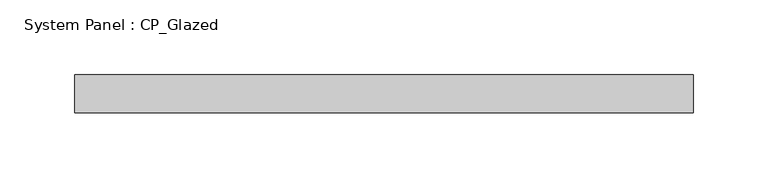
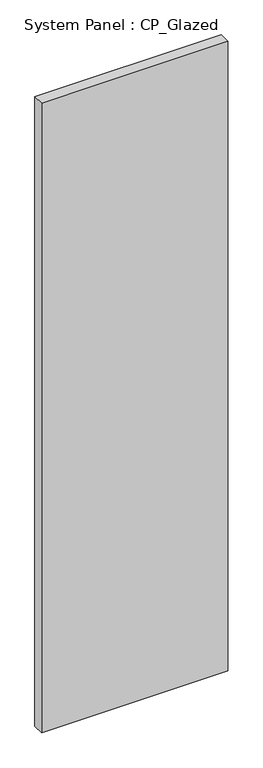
"""IFC4 building model written with IfcOpenShell, lengths in millimetres: plate geometry, System Panel : CP_Glazed."""

from ifc_helpers import new_model, si_unit, origin, origin_with_axes, place, context, project, spatial, polyline, outline, extrude, source, transform, mapped, element, save


def system_panel_cp_glazed_b6a3691b(model_context):
    return source(origin(), model_context, "Body", "SweptSolid", [
        extrude(outline(polyline([(206.9041667, 19.05), (-206.9041667, 19.05), (-206.9041667, 44.45), (206.9041667, 44.45), (206.9041667, 19.05)])), origin_with_axes(), (0.0, 0.0, 1.0), 1479.55),
    ])


if __name__ == "__main__":
    model = new_model("IFC4")
    model_context = context("Model", 3, world=origin())
    ifc_project = project(units=[si_unit("LENGTHUNIT", "METRE", prefix="MILLI")], contexts=[model_context])
    site = spatial("IfcSite", under=ifc_project)
    building = spatial("IfcBuilding", under=site)
    placement = place(None, origin())
    system_panel_cp_glazed_shape = system_panel_cp_glazed_b6a3691b(model_context)
    element("IfcPlate", 1, ObjectType="System Panel : CP_Glazed", at=placement, inside=building, context=model_context, shape_type="MappedRepresentation", body=[
        mapped(system_panel_cp_glazed_shape, transform((0.0, 0.0, 0.0), x_axis=(1.0, 0.0, 0.0), y_axis=(0.0, 1.0, 0.0), z_axis=(0.0, 0.0, 1.0))),
    ])
    save(model, "model.ifc")
